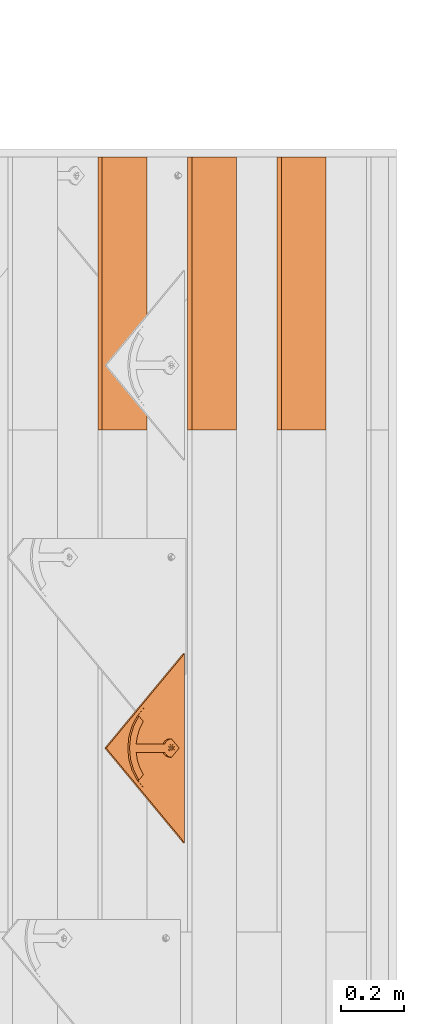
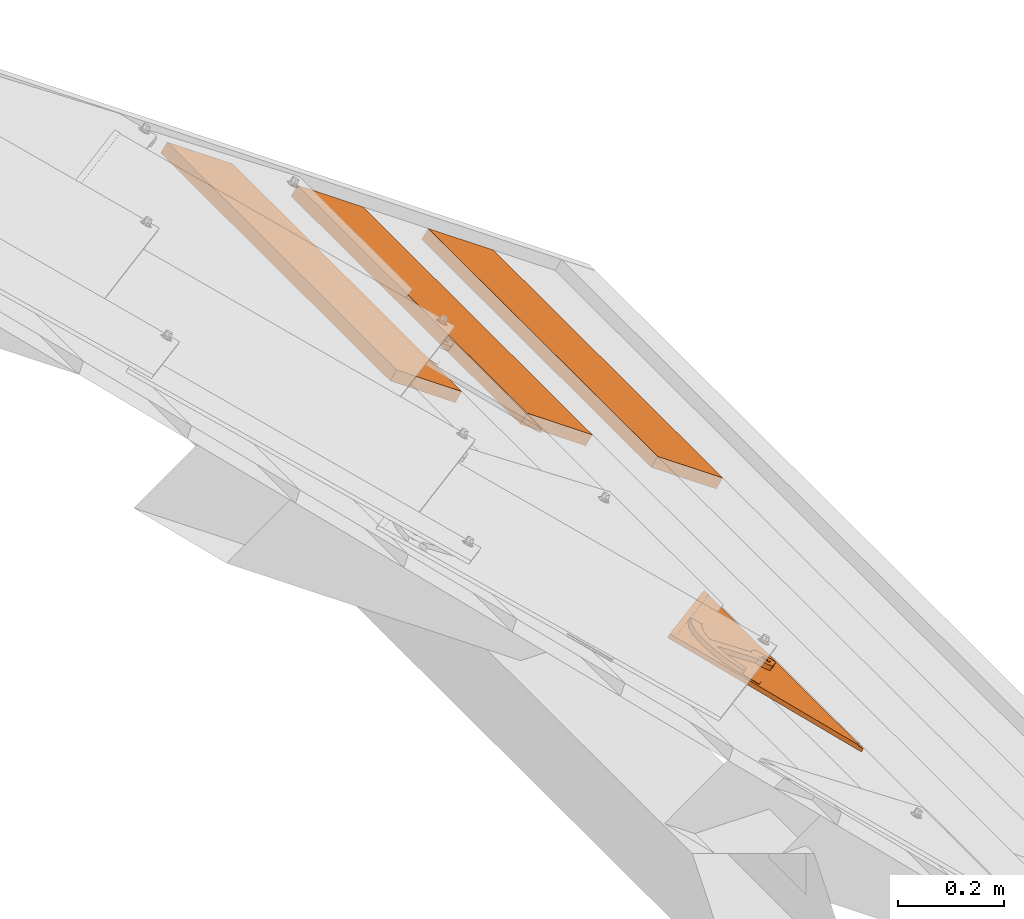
# One storey, part 120 of 133: 4 proxies, 1 element without a shape of its own.
"""IFC2X3 building model written with IfcOpenShell, lengths in millimetres."""

from ifc_helpers import new_model, entity, si_unit, converted_unit, derived_unit, direction, frame, frame_2d, origin, place, context, subcontext, project, spatial, rectangle, extrude, faceted_brep, source, transform, mapped, material, material_list, type_object, type_shapes, element, aggregate, save


model = new_model("IFC2X3")

# Units and contexts
model_context = context("Model", 3, precision=0.01, world=origin(), true_north=direction((6.12303176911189e-17, 1.0)))
body_context = subcontext(model_context, "Body", "Model", "MODEL_VIEW")
ifc_project = project(units=[si_unit("LENGTHUNIT", "METRE", prefix="MILLI"), si_unit("AREAUNIT", "SQUARE_METRE"), si_unit("VOLUMEUNIT", "CUBIC_METRE"), converted_unit("PLANEANGLEUNIT", "DEGREE", entity("IfcRatioMeasure", 0.0174532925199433), si_unit("PLANEANGLEUNIT", "RADIAN"), dimensions=[0, 0, 0, 0, 0, 0, 0]), si_unit("MASSUNIT", "GRAM", prefix="KILO"), derived_unit("MASSDENSITYUNIT", [(si_unit("MASSUNIT", "GRAM", prefix="KILO"), 1), (si_unit("LENGTHUNIT", "METRE"), -3)]), si_unit("TIMEUNIT", "SECOND"), si_unit("FREQUENCYUNIT", "HERTZ"), si_unit("THERMODYNAMICTEMPERATUREUNIT", "DEGREE_CELSIUS"), derived_unit("THERMALTRANSMITTANCEUNIT", [(si_unit("MASSUNIT", "GRAM", prefix="KILO"), 1), (si_unit("THERMODYNAMICTEMPERATUREUNIT", "KELVIN"), -1), (si_unit("TIMEUNIT", "SECOND"), -3)]), derived_unit("VOLUMETRICFLOWRATEUNIT", [(si_unit("LENGTHUNIT", "METRE"), 3), (si_unit("TIMEUNIT", "SECOND"), -1)]), si_unit("ELECTRICCURRENTUNIT", "AMPERE"), si_unit("ELECTRICVOLTAGEUNIT", "VOLT"), si_unit("POWERUNIT", "WATT"), si_unit("FORCEUNIT", "NEWTON", prefix="KILO"), si_unit("ILLUMINANCEUNIT", "LUX"), si_unit("LUMINOUSFLUXUNIT", "LUMEN"), si_unit("LUMINOUSINTENSITYUNIT", "CANDELA"), derived_unit("USERDEFINED", [(si_unit("MASSUNIT", "GRAM", prefix="KILO"), -1), (si_unit("LENGTHUNIT", "METRE"), -2), (si_unit("TIMEUNIT", "SECOND"), 3), (si_unit("LUMINOUSFLUXUNIT", "LUMEN"), 1)]), derived_unit("LINEARVELOCITYUNIT", [(si_unit("LENGTHUNIT", "METRE"), 1), (si_unit("TIMEUNIT", "SECOND"), -1)]), si_unit("PRESSUREUNIT", "PASCAL"), derived_unit("USERDEFINED", [(si_unit("LENGTHUNIT", "METRE"), -2), (si_unit("MASSUNIT", "GRAM", prefix="KILO"), 1), (si_unit("TIMEUNIT", "SECOND"), -2)])], contexts=[model_context])

# Site, building, storey
site_placement = place(None, origin())
site = spatial("IfcSite", under=ifc_project, at=site_placement, Name="Default", CompositionType="ELEMENT")
building_placement = place(site_placement, origin())
building = spatial("IfcBuilding", under=site, at=building_placement, CompositionType="ELEMENT")
storey_placement = place(building_placement, origin())
storey = spatial("IfcBuildingStorey", under=building, at=storey_placement, Name="Level 1", CompositionType="ELEMENT", Elevation=0.0)

# Assembly, proxies
assembly_placement = place(storey_placement, origin())
assembly = element("IfcElementAssembly", 1, at=assembly_placement, inside=storey, Name="Structural Framing Assembly:Roof Construction Assembly", ObjectType="Structural Framing Assembly:Roof Construction Assembly", AssemblyPlace="NOTDEFINED", PredefinedType="USERDEFINED")
ifc_material_1 = material(Name="Wood - Generic - Wood For Showcase")
building_element_proxy_type_1 = type_object("IfcBuildingElementProxyType", Name="Structural Framing 15", PredefinedType="NOTDEFINED", material=ifc_material_1)
shared_shape_1 = source(origin(), body_context, "Body", "SweptSolid", [
    extrude(rectangle(XDim=24.9999999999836, YDim=174.344679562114, at=frame_2d((2.98427949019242e-13, -4.2632564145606e-14), x_axis=(1.0, 0.0))), frame((1285.3560130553, 3055.55080214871, 2760.23940055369), z_axis=(0.0, 1.0, 0.0), x_axis=(0.573576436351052, 0.0, 0.819152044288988)), (0.0, 0.0, 1.0), 870.000000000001),
])
type_shapes(building_element_proxy_type_1, [shared_shape_1])
proxy_1_placement = place(assembly_placement, frame((2999.11081415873, 0.0, -2100.0)))
proxy_1 = element("IfcBuildingElementProxy", 2, at=proxy_1_placement, type_object=building_element_proxy_type_1, material=ifc_material_1, Name="Structural Framing 264:Structural Framing 15", ObjectType="Structural Framing 264:Structural Framing 15", context=body_context, shape_type="MappedRepresentation", body=[
    mapped(shared_shape_1, transform((0.0, 0.0, 0.0), scale=1.0)),
])
building_element_proxy_type_2 = type_object("IfcBuildingElementProxyType", Name="Structural Framing 15", PredefinedType="NOTDEFINED", material=ifc_material_1)
shared_shape_2 = source(origin(), body_context, "Body", "SweptSolid", [
    extrude(rectangle(XDim=24.9999999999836, YDim=174.344679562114, at=frame_2d((2.98427949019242e-13, -4.2632564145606e-14), x_axis=(1.0, 0.0))), frame((1285.3560130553, 3055.55080214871, 2760.23940055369), z_axis=(0.0, 1.0, 0.0), x_axis=(0.573576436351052, 0.0, 0.819152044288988)), (0.0, 0.0, 1.0), 870.000000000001),
])
type_shapes(building_element_proxy_type_2, [shared_shape_2])
proxy_2_placement = place(assembly_placement, frame((3284.74041550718, 0.0, -2300.0)))
proxy_2 = element("IfcBuildingElementProxy", 3, at=proxy_2_placement, type_object=building_element_proxy_type_2, material=ifc_material_1, Name="Structural Framing 274:Structural Framing 15", ObjectType="Structural Framing 274:Structural Framing 15", context=body_context, shape_type="MappedRepresentation", body=[
    mapped(shared_shape_2, transform((0.0, 0.0, 0.0), scale=1.0)),
])
building_element_proxy_type_3 = type_object("IfcBuildingElementProxyType", Name="Structural Framing 15", PredefinedType="NOTDEFINED", material=ifc_material_1)
shared_shape_3 = source(origin(), body_context, "Body", "SweptSolid", [
    extrude(rectangle(XDim=24.9999999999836, YDim=174.344679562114, at=frame_2d((2.98427949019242e-13, -4.2632564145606e-14), x_axis=(1.0, 0.0))), frame((1285.3560130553, 3055.55080214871, 2760.23940055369), z_axis=(0.0, 1.0, 0.0), x_axis=(0.573576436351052, 0.0, 0.819152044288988)), (0.0, 0.0, 1.0), 870.000000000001),
])
type_shapes(building_element_proxy_type_3, [shared_shape_3])
proxy_3_placement = place(assembly_placement, frame((3570.37001685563, 0.0, -2500.0)))
proxy_3 = element("IfcBuildingElementProxy", 4, at=proxy_3_placement, type_object=building_element_proxy_type_3, material=ifc_material_1, Name="Structural Framing 284:Structural Framing 15", ObjectType="Structural Framing 284:Structural Framing 15", context=body_context, shape_type="MappedRepresentation", body=[
    mapped(shared_shape_3, transform((0.0, 0.0, 0.0), scale=1.0)),
])
aggregate(assembly, [proxy_1, proxy_2, proxy_3])

# Proxy
ifc_material_2 = material(Name="Rubber - Sunstyle - Black")
ifc_material_3 = material(Name="Glass - Sunstyle - Tainted Black")
ifc_material_list_1 = material_list([ifc_material_2, ifc_material_3])
ifc_material_list_2 = material_list([ifc_material_2, ifc_material_3])
building_element_proxy_type_4 = type_object("IfcBuildingElementProxyType", Name="Shingle Bottom Small - Black", PredefinedType="NOTDEFINED", material=ifc_material_list_2)
shared_shape_4 = source(origin(), body_context, "Body", "Brep", [
    faceted_brep([(302.08842791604, 44.9093317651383, 22.0558382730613), (302.08842791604, 49.408700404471, 21.980485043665), (293.484723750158, 48.4726030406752, 21.9961623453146), (310.692132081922, 48.4726030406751, 21.9961623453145), (308.728656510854, 53.2419006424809, 21.9162884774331), (314.255903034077, 57.0751008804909, 21.8520919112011), (308.728656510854, 60.9083011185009, 21.7878953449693), (310.692132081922, 65.6775987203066, 21.7080214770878), (302.08842791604, 64.7415013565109, 21.7236987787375), (302.08842791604, 69.2408699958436, 21.6483455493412), (293.484723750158, 65.6775987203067, 21.708021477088), (295.448199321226, 60.908301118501, 21.7878953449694), (289.920952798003, 57.0751008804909, 21.8520919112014), (295.448199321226, 53.2419006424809, 21.9162884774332), (295.448199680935, 60.6403782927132, 5.79013870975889), (302.08842791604, 64.473578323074, 5.72594214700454), (295.448199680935, 52.9739782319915, 5.91853183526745), (302.08842791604, 49.1407782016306, 5.98272839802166), (308.728656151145, 52.9739782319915, 5.91853183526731), (308.728656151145, 60.6403782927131, 5.79013870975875), (293.484723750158, 48.2046804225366, 5.99840570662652), (302.08842791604, 44.6414091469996, 6.05808163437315), (289.920952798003, 56.8071782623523, 5.85433527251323), (293.484723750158, 65.4096761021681, 5.71026483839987), (302.08842791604, 68.972947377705, 5.65058891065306), (310.692132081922, 65.409676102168, 5.71026483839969), (314.255903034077, 56.8071782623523, 5.85433527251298), (310.692132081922, 48.2046804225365, 5.99840570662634)], [[[0, 1, 2]], [[1, 0, 3]], [[3, 4, 1]], [[4, 3, 5]], [[6, 4, 5]], [[5, 7, 6]], [[7, 8, 6]], [[8, 7, 9]], [[8, 9, 10]], [[10, 11, 8]], [[12, 11, 10]], [[2, 13, 12]], [[12, 13, 11]], [[13, 2, 1]], [[8, 11, 14, 15]], [[11, 13, 16, 14]], [[13, 1, 17, 16]], [[1, 4, 18, 17]], [[4, 6, 19, 18]], [[6, 8, 15, 19]], [[20, 17, 21]], [[17, 20, 16]], [[22, 16, 20]], [[14, 16, 22]], [[23, 14, 22]], [[15, 14, 23]], [[23, 24, 15]], [[24, 25, 15]], [[19, 15, 25]], [[19, 25, 26]], [[26, 18, 19]], [[26, 27, 18]], [[17, 18, 27]], [[27, 21, 17]], [[24, 23, 10, 9]], [[10, 23, 22, 12]], [[20, 21, 0, 2]], [[20, 2, 12, 22]], [[21, 27, 3, 0]], [[3, 27, 26, 5]], [[25, 24, 9, 7]], [[25, 7, 5, 26]]]),
    faceted_brep([(587.35835892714, 0.0, 12.5593198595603), (595.843045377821, 8.4846864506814, 12.4172224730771), (595.843045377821, 8.50980419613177, 13.9170121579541), (587.35835892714, 0.0251177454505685, 14.0591095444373), (302.088750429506, 285.189618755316, 7.7831033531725), (16.8191419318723, 0.0, 12.5593198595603), (8.33445548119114, 8.48468645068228, 12.4172224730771), (302.088750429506, 302.156612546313, 7.49894842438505), (302.088750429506, 302.181730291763, 8.9987381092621), (8.33445548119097, 8.50980419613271, 13.9170121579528), (16.8191419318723, 0.0251177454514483, 14.0591095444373), (302.088750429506, 285.214736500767, 9.28289303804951)], [[[0, 1, 2, 3]], [[1, 0, 4, 5, 6, 7]], [[2, 1, 7, 8]], [[3, 2, 8, 9, 10, 11]], [[0, 3, 11, 4]], [[5, 10, 9, 6]], [[8, 7, 6, 9]], [[4, 11, 10, 5]]]),
    faceted_brep([(302.088750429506, 302.156612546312, 7.49894842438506), (305.194256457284, 68.3255429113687, 11.4150370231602), (308.088427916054, 67.1269059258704, 11.4351112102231), (302.088427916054, 68.7343756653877, 11.4081900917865), (310.573709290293, 65.2201498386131, 11.4670446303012), (298.982599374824, 68.3255429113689, 11.4150370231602), (296.088427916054, 67.1269059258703, 11.4351112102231), (293.603146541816, 65.2201498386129, 11.4670446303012), (312.480732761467, 62.7352169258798, 11.5086610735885), (604.177500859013, 0.152567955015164, 12.5567647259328), (291.696123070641, 62.7352169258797, 11.5086610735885), (0.0, 0.152567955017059, 12.5567647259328), (290.497318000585, 59.8414512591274, 11.5571244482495), (290.088427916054, 56.7360581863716, 11.6091320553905), (290.497318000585, 53.6306651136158, 11.6611396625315), (291.696123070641, 50.7368994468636, 11.7096030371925), (293.603146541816, 48.2519665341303, 11.7512194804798), (296.088427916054, 46.3452104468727, 11.7831529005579), (298.982599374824, 45.1465734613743, 11.8032270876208), (302.088427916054, 44.7377407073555, 11.8100740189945), (313.679537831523, 59.8414512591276, 11.5571244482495), (314.088427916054, 56.7360581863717, 11.6091320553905), (313.679537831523, 53.6306651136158, 11.6611396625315), (312.480732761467, 50.7368994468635, 11.7096030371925), (310.573709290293, 48.2519665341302, 11.7512194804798), (308.088427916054, 46.3452104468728, 11.7831529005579), (305.194256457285, 45.1465734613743, 11.8032270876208), (0.0, 0.0269792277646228, 5.0578163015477), (290.088427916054, 56.6104694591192, 4.11018363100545), (290.497318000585, 53.5050763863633, 4.16219123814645), (290.497318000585, 59.7158625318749, 4.05817602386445), (291.696123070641, 50.6113107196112, 4.21065461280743), (291.696123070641, 62.6096281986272, 4.00971264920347), (302.088750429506, 302.031023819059, 0.0), (293.603146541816, 48.1263778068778, 4.25227105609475), (296.088427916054, 46.2196217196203, 4.28420447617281), (298.982599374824, 45.0209847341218, 4.30427866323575), (302.088427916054, 44.612151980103, 4.31112559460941), (604.177500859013, 0.0269792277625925, 5.05781630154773), (293.603146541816, 65.0945611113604, 3.96809620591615), (296.088427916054, 67.0013171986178, 3.93616278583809), (298.982599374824, 68.1999541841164, 3.91608859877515), (302.088427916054, 68.6087869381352, 3.90924166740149), (305.194256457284, 68.1999541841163, 3.91608859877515), (308.088427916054, 67.0013171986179, 3.93616278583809), (310.573709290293, 65.0945611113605, 3.96809620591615), (312.480732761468, 62.6096281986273, 4.00971264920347), (305.194256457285, 45.0209847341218, 4.30427866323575), (308.088427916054, 46.2196217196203, 4.28420447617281), (313.679537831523, 59.7158625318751, 4.05817602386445), (314.088427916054, 56.6104694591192, 4.11018363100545), (313.679537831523, 53.5050763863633, 4.16219123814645), (312.480732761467, 50.611310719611, 4.21065461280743), (310.573709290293, 48.1263778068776, 4.25227105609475)], [[[0, 1, 2]], [[1, 0, 3]], [[0, 2, 4]], [[5, 3, 0]], [[6, 5, 0]], [[0, 7, 6]], [[8, 0, 4]], [[0, 8, 9]], [[7, 0, 10]], [[0, 11, 10]], [[12, 10, 11]], [[11, 13, 12]], [[13, 11, 14]], [[15, 14, 11]], [[11, 16, 15]], [[17, 16, 11]], [[17, 11, 18]], [[19, 18, 11]], [[19, 11, 9]], [[9, 8, 20]], [[20, 21, 9]], [[21, 22, 9]], [[22, 23, 9]], [[9, 23, 24]], [[24, 25, 9]], [[25, 26, 9]], [[9, 26, 19]], [[27, 28, 29]], [[28, 27, 30]], [[27, 29, 31]], [[32, 30, 27]], [[32, 27, 33]], [[31, 34, 27]], [[34, 35, 27]], [[35, 36, 27]], [[36, 37, 27]], [[27, 37, 38]], [[33, 39, 32]], [[40, 39, 33]], [[41, 40, 33]], [[42, 41, 33]], [[33, 43, 42]], [[43, 33, 44]], [[45, 44, 33]], [[33, 46, 45]], [[46, 33, 38]], [[38, 37, 47]], [[47, 48, 38]], [[49, 46, 38]], [[38, 50, 49]], [[50, 38, 51]], [[52, 51, 38]], [[53, 52, 38]], [[53, 38, 48]], [[11, 0, 33, 27]], [[0, 9, 38, 33]], [[13, 28, 30, 12]], [[12, 30, 32, 10]], [[6, 7, 39, 40]], [[39, 7, 10, 32]], [[5, 6, 40, 41]], [[5, 41, 42, 3]], [[3, 42, 43, 1]], [[1, 43, 44, 2]], [[8, 4, 45, 46]], [[45, 4, 2, 44]], [[20, 8, 46, 49]], [[20, 49, 50, 21]], [[21, 50, 51, 22]], [[22, 51, 52, 23]], [[25, 24, 53, 48]], [[53, 24, 23, 52]], [[26, 25, 48, 47]], [[26, 47, 37, 19]], [[19, 37, 36, 18]], [[18, 36, 35, 17]], [[15, 16, 34, 31]], [[34, 16, 17, 35]], [[14, 15, 31, 29]], [[14, 29, 28, 13]], [[9, 11, 27, 38]]]),
    faceted_brep([(190.819384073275, 138.646056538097, 12.7376939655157), (217.144031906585, 164.967013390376, 12.2968834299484), (200.060856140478, 182.04779392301, 12.0108228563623), (193.80845410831, 176.686146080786, 12.100617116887), (187.837458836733, 171.012871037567, 12.1956303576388), (173.141714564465, 156.321247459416, 12.4416784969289), (431.035141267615, 156.321247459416, 12.4416784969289), (416.339396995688, 171.012871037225, 12.1956303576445), (410.36840172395, 176.686146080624, 12.1006171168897), (404.115999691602, 182.047793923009, 12.0108228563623), (387.031626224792, 164.968210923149, 12.2968633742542), (413.357471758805, 138.646056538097, 12.7376939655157), (296.088427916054, 67.294357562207, 21.4337091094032), (288.788427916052, 83.1076295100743, 21.1688761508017), (283.384321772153, 79.569581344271, 21.2281296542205), (293.603146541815, 65.3876014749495, 21.4656425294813), (298.982599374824, 68.4929945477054, 21.4136349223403), (302.088427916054, 68.9018273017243, 21.4067879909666), (315.388427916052, 83.107629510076, 21.1688761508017), (305.194256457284, 68.4929945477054, 21.4136349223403), (308.088427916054, 67.2943575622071, 21.4337091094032), (320.792534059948, 79.5695813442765, 21.2281296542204), (310.573709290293, 65.3876014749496, 21.4656425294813), (325.293078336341, 74.9365758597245, 21.3057209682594), (312.480732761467, 62.9026685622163, 21.5072589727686), (328.672647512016, 69.4324252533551, 21.3979017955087), (313.679537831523, 60.0089028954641, 21.5557223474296), (330.767980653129, 63.323025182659, 21.500219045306), (314.088427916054, 56.9035098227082, 21.6077299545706), (331.477855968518, 56.9035098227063, 21.6077299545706), (313.679537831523, 53.7981167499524, 21.6597375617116), (312.480732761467, 50.9043510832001, 21.7082009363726), (310.573709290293, 48.4194181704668, 21.7498173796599), (302.08842791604, 27.5182024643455, 22.0998607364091), (308.088427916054, 46.5126620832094, 21.7817507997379), (305.194256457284, 45.314025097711, 21.8018249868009), (302.088427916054, 44.9051923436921, 21.8086719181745), (298.982599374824, 45.314025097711, 21.8018249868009), (296.088427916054, 46.5126620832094, 21.7817507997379), (293.603146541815, 48.4194181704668, 21.7498173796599), (272.69899986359, 56.903509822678, 21.6077299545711), (291.696123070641, 50.9043510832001, 21.7082009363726), (290.497318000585, 53.7981167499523, 21.6597375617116), (290.088427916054, 56.9035098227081, 21.6077299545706), (273.408875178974, 63.3230251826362, 21.5002190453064), (290.497318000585, 60.008902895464, 21.5557223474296), (275.504208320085, 69.4324252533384, 21.397901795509), (291.696123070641, 62.9026685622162, 21.5072589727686), (278.883777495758, 74.9365758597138, 21.3057209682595), (288.788427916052, 192.984512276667, 19.3287117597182), (315.388427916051, 192.984512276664, 19.3287117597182), (302.088427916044, 218.456125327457, 18.9021256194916), (338.579268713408, 214.282159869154, 18.9720291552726), (340.858170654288, 188.169632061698, 19.4093490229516), (373.184513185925, 201.975945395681, 19.1781276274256), (365.012761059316, 178.765998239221, 19.5668364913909), (404.115999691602, 182.173382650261, 19.5097712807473), (387.032823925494, 165.092602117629, 19.7958318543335), (265.59758711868, 214.28215986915, 18.9720291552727), (263.318685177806, 188.169632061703, 19.4093490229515), (230.992342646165, 201.975945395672, 19.1781276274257), (239.164094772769, 178.765998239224, 19.5668364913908), (200.06085614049, 182.173382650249, 19.5097712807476), (217.144031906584, 165.092602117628, 19.7958318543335), (302.08842791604, 27.3507508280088, 12.1012628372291), (302.088427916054, 44.7377407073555, 11.8100740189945), (305.194256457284, 45.1465734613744, 11.8032270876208), (298.982599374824, 45.1465734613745, 11.8032270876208), (308.088427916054, 46.3452104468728, 11.7831529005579), (310.573709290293, 48.2519665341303, 11.7512194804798), (331.477855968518, 56.7360581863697, 11.6091320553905), (296.088427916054, 46.3452104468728, 11.7831529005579), (293.603146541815, 48.2519665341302, 11.7512194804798), (272.69899986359, 56.7360581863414, 11.609132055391), (291.696123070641, 50.7368994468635, 11.7096030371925), (290.497318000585, 53.6306651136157, 11.6611396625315), (290.088427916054, 56.7360581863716, 11.6091320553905), (273.408875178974, 63.1555735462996, 11.5016211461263), (290.497318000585, 59.8414512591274, 11.5571244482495), (275.504208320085, 69.2649736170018, 11.3993038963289), (291.696123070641, 62.7352169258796, 11.5086610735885), (278.883777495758, 74.7691242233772, 11.3071230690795), (293.603146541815, 65.2201498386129, 11.4670446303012), (283.384321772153, 79.4021297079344, 11.2295317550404), (296.088427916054, 67.1269059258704, 11.4351112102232), (288.788427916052, 82.9401778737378, 11.1702782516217), (298.982599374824, 68.3255429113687, 11.4150370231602), (302.088427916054, 68.7343756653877, 11.4081900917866), (315.388427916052, 82.9401778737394, 11.1702782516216), (288.788427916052, 192.81706064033, 9.33011386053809), (315.388427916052, 192.817060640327, 9.33011386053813), (302.088427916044, 218.28867369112, 8.90352772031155), (265.59758711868, 214.114708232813, 8.97343125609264), (263.318685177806, 188.002180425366, 9.41075112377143), (230.992342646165, 201.808493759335, 9.17952972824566), (239.164094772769, 178.598546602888, 9.56823859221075), (200.06085614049, 182.005931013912, 9.51117338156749), (217.145229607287, 164.926348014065, 9.79721389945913), (193.80845410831, 176.644283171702, 9.60096764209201), (187.837458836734, 170.971008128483, 9.69598088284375), (190.819384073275, 138.604193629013, 10.2380444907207), (173.141714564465, 156.279384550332, 9.94202902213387), (338.579268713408, 214.114708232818, 8.97343125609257), (340.858170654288, 188.002180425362, 9.41075112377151), (373.184513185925, 201.808493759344, 9.17952972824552), (365.012761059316, 178.598546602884, 9.5682385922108), (404.115999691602, 182.005931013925, 9.51117338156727), (387.032823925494, 164.925150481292, 9.79723395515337), (410.36840172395, 176.64428317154, 9.60096764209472), (416.339396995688, 170.971008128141, 9.69598088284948), (413.357471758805, 138.604193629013, 10.2380444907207), (431.035141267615, 156.279384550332, 9.94202902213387), (305.194256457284, 68.3255429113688, 11.4150370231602), (308.088427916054, 67.1269059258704, 11.4351112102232), (320.792534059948, 79.4021297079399, 11.2295317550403), (310.573709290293, 65.220149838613, 11.4670446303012), (325.293078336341, 74.7691242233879, 11.3071230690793), (312.480732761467, 62.7352169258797, 11.5086610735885), (328.672647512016, 69.2649736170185, 11.3993038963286), (313.679537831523, 59.8414512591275, 11.5571244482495), (330.767980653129, 63.1555735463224, 11.5016211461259), (314.088427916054, 56.7360581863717, 11.6091320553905), (312.480732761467, 50.7368994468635, 11.7096030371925), (313.679537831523, 53.6306651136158, 11.6611396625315)], [[[0, 1, 2, 3, 4, 5]], [[6, 7, 8, 9, 10, 11]], [[12, 13, 14]], [[12, 14, 15]], [[16, 13, 12]], [[17, 13, 16]], [[18, 13, 17]], [[17, 19, 18]], [[19, 20, 18]], [[20, 21, 18]], [[21, 20, 22]], [[21, 22, 23]], [[24, 23, 22]], [[23, 24, 25]], [[24, 26, 25]], [[27, 25, 26]], [[26, 28, 27]], [[29, 27, 28]], [[28, 30, 29]], [[30, 31, 29]], [[29, 31, 32]], [[32, 33, 29]], [[32, 34, 33]], [[35, 33, 34]], [[36, 33, 35]], [[33, 36, 37]], [[38, 33, 37]], [[38, 39, 33]], [[40, 33, 39]], [[41, 40, 39]], [[41, 42, 40]], [[42, 43, 40]], [[43, 44, 40]], [[45, 44, 43]], [[45, 46, 44]], [[45, 47, 46]], [[48, 46, 47]], [[48, 47, 15]], [[48, 15, 14]], [[18, 49, 13]], [[50, 49, 18]], [[51, 49, 50]], [[50, 52, 51]], [[50, 53, 52]], [[52, 53, 54]], [[53, 55, 54]], [[56, 54, 55]], [[57, 56, 55]], [[58, 49, 51]], [[49, 58, 59]], [[60, 59, 58]], [[60, 61, 59]], [[61, 60, 62]], [[62, 63, 61]], [[64, 65, 66]], [[65, 64, 67]], [[64, 66, 68]], [[68, 69, 64]], [[64, 69, 70]], [[71, 67, 64]], [[71, 64, 72]], [[72, 64, 73]], [[73, 74, 72]], [[74, 73, 75]], [[75, 73, 76]], [[77, 76, 73]], [[76, 77, 78]], [[78, 77, 79]], [[80, 78, 79]], [[81, 80, 79]], [[82, 80, 81]], [[83, 82, 81]], [[83, 84, 82]], [[85, 84, 83]], [[85, 86, 84]], [[87, 86, 85]], [[88, 87, 85]], [[89, 88, 85]], [[88, 89, 90]], [[89, 91, 90]], [[91, 89, 92]], [[93, 92, 89]], [[92, 93, 94]], [[95, 94, 93]], [[96, 94, 95]], [[95, 97, 96]], [[97, 98, 96]], [[98, 97, 99]], [[97, 100, 99]], [[99, 100, 101]], [[90, 91, 102]], [[103, 90, 102]], [[103, 102, 104]], [[105, 103, 104]], [[106, 105, 104]], [[107, 105, 106]], [[106, 108, 107]], [[109, 107, 108]], [[110, 107, 109]], [[109, 111, 110]], [[112, 87, 88]], [[113, 112, 88]], [[114, 113, 88]], [[115, 113, 114]], [[115, 114, 116]], [[116, 117, 115]], [[117, 116, 118]], [[118, 119, 117]], [[120, 119, 118]], [[121, 120, 70]], [[120, 121, 119]], [[70, 69, 122]], [[122, 123, 70]], [[123, 121, 70]], [[13, 49, 89, 85]], [[14, 13, 85, 83]], [[48, 14, 83, 81]], [[81, 79, 46, 48]], [[44, 46, 79, 77]], [[40, 44, 77, 73]], [[33, 40, 73, 64]], [[0, 5, 101, 100]], [[29, 33, 64, 70]], [[6, 11, 110, 111]], [[27, 29, 70, 120]], [[25, 27, 120, 118]], [[118, 116, 23, 25]], [[21, 23, 116, 114]], [[18, 21, 114, 88]], [[50, 18, 88, 90]], [[9, 106, 104, 54, 56]], [[52, 54, 104, 102]], [[51, 52, 102, 91]], [[58, 51, 91, 92]], [[94, 96, 2, 62, 60]], [[60, 58, 92, 94]], [[43, 76, 78, 45]], [[45, 78, 80, 47]], [[12, 15, 82, 84]], [[80, 82, 15, 47]], [[16, 12, 84, 86]], [[87, 17, 16, 86]], [[19, 112, 113, 20]], [[20, 113, 115, 22]], [[26, 24, 117, 119]], [[115, 117, 24, 22]], [[28, 26, 119, 121]], [[19, 17, 87, 112]], [[28, 121, 123, 30]], [[30, 123, 122, 31]], [[34, 32, 69, 68]], [[122, 69, 32, 31]], [[35, 34, 68, 66]], [[65, 36, 35, 66]], [[37, 67, 71, 38]], [[38, 71, 72, 39]], [[42, 41, 74, 75]], [[72, 74, 41, 39]], [[43, 42, 75, 76]], [[37, 36, 65, 67]], [[7, 6, 111, 109]], [[7, 109, 108, 8]], [[108, 106, 9, 8]], [[11, 10, 107, 110]], [[1, 0, 100, 97]], [[2, 96, 98, 3]], [[98, 99, 4, 3]], [[5, 4, 99, 101]], [[63, 62, 2, 1]], [[56, 57, 10]], [[10, 9, 56]], [[1, 95, 61, 63]], [[1, 97, 95]], [[93, 89, 49, 59]], [[95, 93, 59, 61]], [[90, 103, 53, 50]], [[103, 105, 55, 53]], [[10, 57, 55]], [[107, 10, 105]], [[55, 105, 10]]]),
])
type_shapes(building_element_proxy_type_4, [shared_shape_4])
proxy_4_placement = place(storey_placement, frame((4475.24953124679, 1739.61156183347, 539.791942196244), z_axis=(0.573576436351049, 0.0, 0.81915204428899), x_axis=(0.0, 1.0, 0.0)))
element("IfcBuildingElementProxy", 5, at=proxy_4_placement, inside=storey, type_object=building_element_proxy_type_4, material=ifc_material_list_1, Name="Roofing_Panels_SunStyle_Tile_Shingle-Bottom-Small:Shingle Bottom Small - Black", ObjectType="Roofing_Panels_SunStyle_Tile_Shingle-Bottom-Small:Shingle Bottom Small - Black", context=body_context, shape_type="MappedRepresentation", body=[
    mapped(shared_shape_4, transform((0.0, 0.0, 0.0), scale=1.0)),
])

save(model, "model.ifc")
